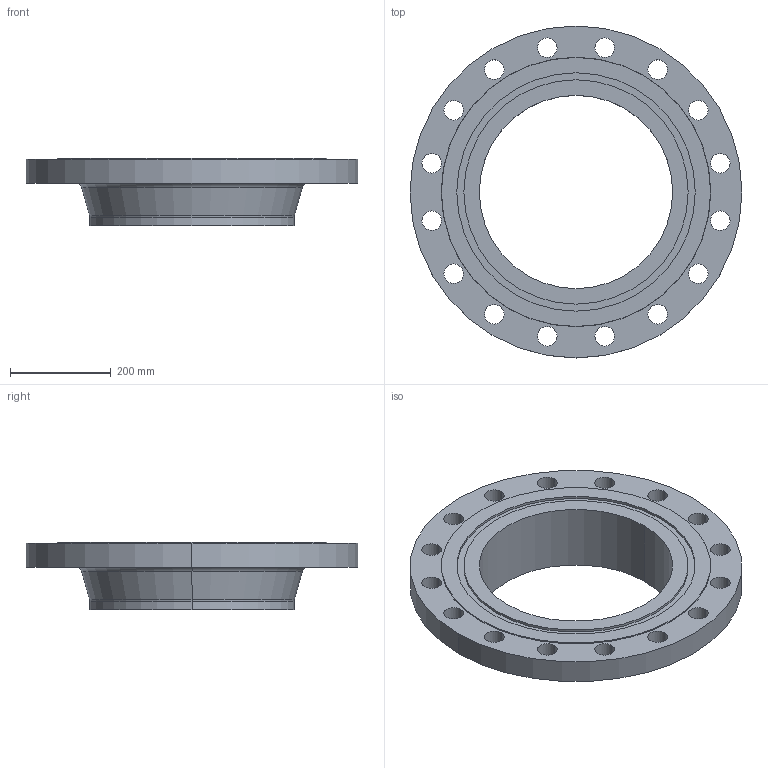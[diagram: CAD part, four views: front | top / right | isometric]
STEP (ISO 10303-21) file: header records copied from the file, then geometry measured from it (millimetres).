
FILE_DESCRIPTION (( 'STEP AP214' ), '1' );
FILE_NAME ('PN40 DN400 Type 11 - Type D Face.STEP', '2019-01-05T23:19:31', ( '' ), ( '' ), 'SwSTEP 2.0', 'SolidWorks 2019', '' );
FILE_SCHEMA (( 'AUTOMOTIVE_DESIGN' ));
Length unit declared in the file: millimetre
Products named in the file (1): PN40 DN400 Type 11 - Type D Face
Bounding box: 660 x 660 x 135 mm (x, y, z)
Volume: 12053982.9 mm3; surface area: 875084.1 mm2
Topology: 1 solids, 1 shells, 56 faces, 144 edges, 94 vertices
Faces by surface type: cylinder 42, plane 6, torus 4, cone 4
Entity records: 1860 total; most frequent: DIRECTION 356, CARTESIAN_POINT 295, ORIENTED_EDGE 288, AXIS2_PLACEMENT_3D 155, EDGE_CURVE 144, CIRCLE 98, VERTEX_POINT 94, EDGE_LOOP 94
